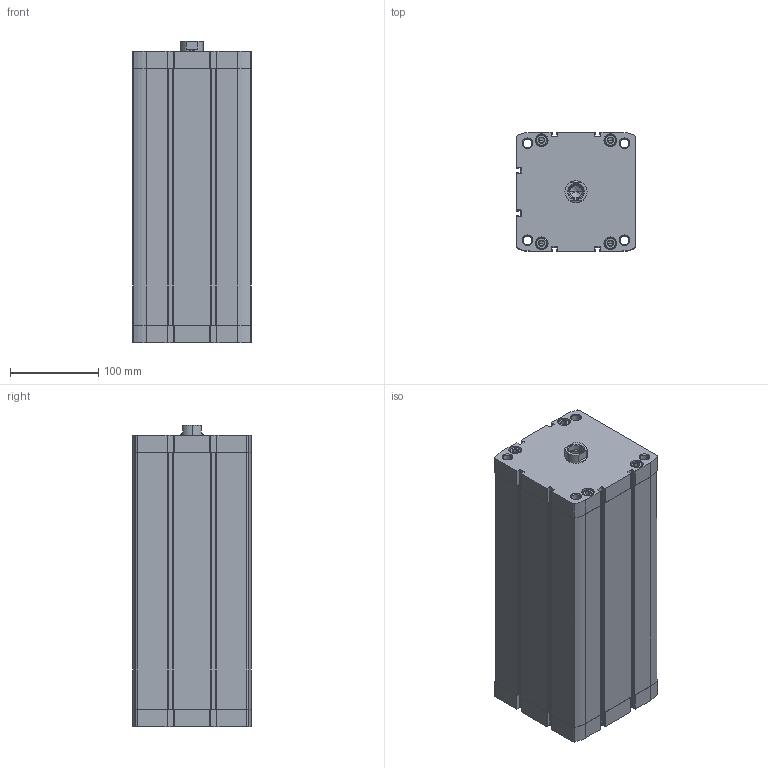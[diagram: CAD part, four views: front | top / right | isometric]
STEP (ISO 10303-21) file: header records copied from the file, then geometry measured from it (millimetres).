
FILE_DESCRIPTION (( 'STEP AP203' ), '1' );
FILE_NAME ('CCN125-250F.STEP', '2020-06-05T19:30:52', ( '' ), ( '' ), 'SwSTEP 2.0', 'SolidWorks 2019', '' );
FILE_SCHEMA (( 'CONFIG_CONTROL_DESIGN' ));
Length unit declared in the file: millimetre
Products named in the file (1): CCN125-250F
Bounding box: 134.6 x 134.6 x 342 mm (x, y, z)
Volume: 2789027.3 mm3; surface area: 480123.2 mm2
Topology: 2 solids, 2 shells, 535 faces, 1370 edges, 861 vertices
Faces by surface type: plane 267, cylinder 194, cone 74
Entity records: 17215 total; most frequent: CARTESIAN_POINT 3931, DIRECTION 2876, ORIENTED_EDGE 2704, EDGE_CURVE 1352, AXIS2_PLACEMENT_3D 1054, VERTEX_POINT 861, VECTOR 768, LINE 768
